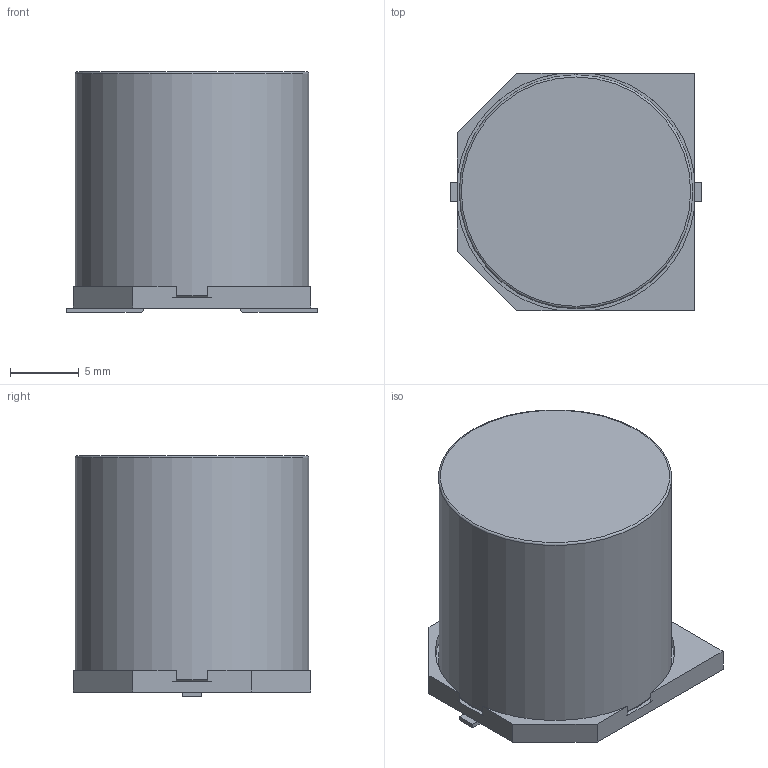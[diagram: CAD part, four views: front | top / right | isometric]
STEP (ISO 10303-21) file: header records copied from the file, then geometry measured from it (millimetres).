
FILE_DESCRIPTION(('FreeCAD Model'),'2;1');
FILE_NAME('/var/www/3D/0T/169515.1.1.stp','2022-03-18T07:01:54',( 'Author'),(''),'Open CASCADE STEP processor 6.9','FreeCAD','Unknown' );
FILE_SCHEMA(('AUTOMOTIVE_DESIGN { 1 0 10303 214 1 1 1 1 }'));
Length unit declared in the file: millimetre
Products named in the file (5): ASSEMBLY; Base; Pin1Fillet; Pin2Fillet; Fillet
Assembly tree (4 placements, depth 2):
  ASSEMBLY
    Base
    Pin1Fillet
    Pin2Fillet
    Fillet
Bounding box: 18.3 x 17.3 x 17.5 mm (x, y, z)
Volume: 3984.6 mm3; surface area: 2055.5 mm2
Topology: 4 solids, 4 shells, 35 faces, 79 edges, 52 vertices
Faces by surface type: plane 26, cylinder 7, torus 2
Full cylindrical faces by diameter (mm): 17 x1
Entity records: 2098 total; most frequent: CARTESIAN_POINT 369, DIRECTION 305, LINE 177, VECTOR 177, ORIENTED_EDGE 158, PCURVE 158, DEFINITIONAL_REPRESENTATION 158, EDGE_CURVE 79
